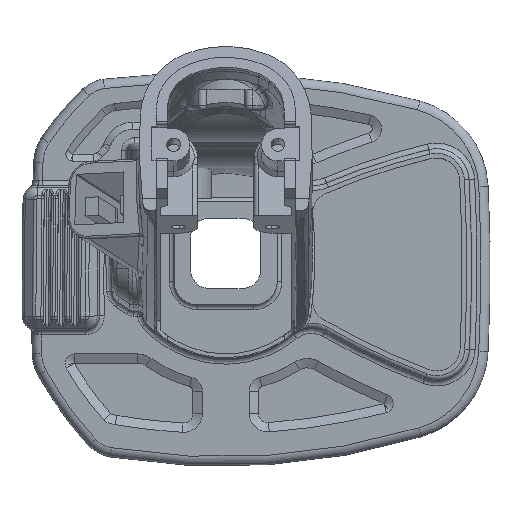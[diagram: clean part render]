
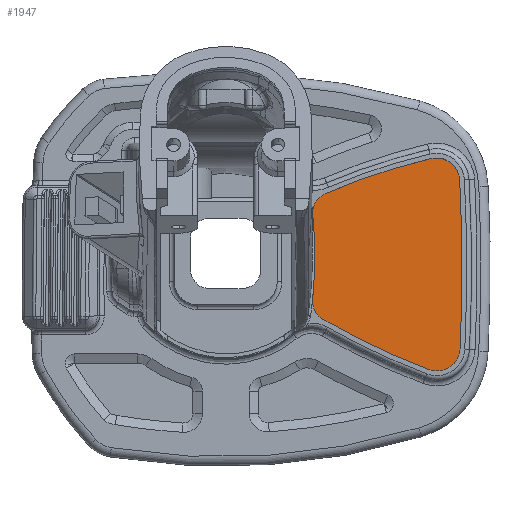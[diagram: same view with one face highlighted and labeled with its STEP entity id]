
A CAD part, top view. The second image highlights one B-rep face of the part: STEP entity #1947.
In plain terms, the highlighted planar face has unit normal (0, 0, 1).
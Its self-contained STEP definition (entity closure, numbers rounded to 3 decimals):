
#1250=FACE_OUTER_BOUND('',#2853,.T.);
#1947=ADVANCED_FACE('',(#1250),#2170,.T.);
#2170=PLANE('',#11968);
#2853=EDGE_LOOP('',(#7524,#7525,#7526,#7527,#7528,#7529,#7530,#7531));
#4536=B_SPLINE_CURVE_WITH_KNOTS('',3,(#27528,#27529,#27530,#27531),.UNSPECIFIED.,
 .F.,.F.,(4,4),(0.,1.),.UNSPECIFIED.);
#7524=ORIENTED_EDGE('',*,*,#10481,.T.);
#7525=ORIENTED_EDGE('',*,*,#10483,.F.);
#7526=ORIENTED_EDGE('',*,*,#10472,.T.);
#7527=ORIENTED_EDGE('',*,*,#10484,.F.);
#7528=ORIENTED_EDGE('',*,*,#10475,.T.);
#7529=ORIENTED_EDGE('',*,*,#10485,.F.);
#7530=ORIENTED_EDGE('',*,*,#10478,.T.);
#7531=ORIENTED_EDGE('',*,*,#10486,.F.);
#8886=VERTEX_POINT('',#27509);
#8887=VERTEX_POINT('',#27511);
#8888=VERTEX_POINT('',#27515);
#8889=VERTEX_POINT('',#27517);
#8890=VERTEX_POINT('',#27521);
#8891=VERTEX_POINT('',#27523);
#8892=VERTEX_POINT('',#27527);
#8893=VERTEX_POINT('',#27532);
#10472=EDGE_CURVE('',#8887,#8886,#11098,.T.);
#10475=EDGE_CURVE('',#8889,#8888,#11099,.T.);
#10478=EDGE_CURVE('',#8891,#8890,#11100,.T.);
#10481=EDGE_CURVE('',#8893,#8892,#4536,.T.);
#10483=EDGE_CURVE('',#8887,#8892,#11101,.T.);
#10484=EDGE_CURVE('',#8889,#8886,#11102,.T.);
#10485=EDGE_CURVE('',#8891,#8888,#11103,.T.);
#10486=EDGE_CURVE('',#8893,#8890,#11104,.T.);
#11098=CIRCLE('',#11958,154.09);
#11099=CIRCLE('',#11960,346.169);
#11100=CIRCLE('',#11962,134.86);
#11101=CIRCLE('',#11964,4.5);
#11102=CIRCLE('',#11965,5.);
#11103=CIRCLE('',#11966,5.);
#11104=CIRCLE('',#11967,4.5);
#11958=AXIS2_PLACEMENT_3D('',#27510,#14108,#14109);
#11960=AXIS2_PLACEMENT_3D('',#27516,#14114,#14115);
#11962=AXIS2_PLACEMENT_3D('',#27522,#14120,#14121);
#11964=AXIS2_PLACEMENT_3D('',#27542,#14127,#14128);
#11965=AXIS2_PLACEMENT_3D('',#27543,#14129,#14130);
#11966=AXIS2_PLACEMENT_3D('',#27544,#14131,#14132);
#11967=AXIS2_PLACEMENT_3D('',#27545,#14133,#14134);
#11968=AXIS2_PLACEMENT_3D('',#27546,#14135,#14136);
#14108=DIRECTION('',(0.,0.,1.));
#14109=DIRECTION('',(1.,0.,0.));
#14114=DIRECTION('',(0.,0.,1.));
#14115=DIRECTION('',(1.,0.,0.));
#14120=DIRECTION('',(0.,0.,1.));
#14121=DIRECTION('',(1.,0.,0.));
#14127=DIRECTION('',(0.,0.,-1.));
#14128=DIRECTION('',(1.,0.,0.));
#14129=DIRECTION('',(0.,0.,-1.));
#14130=DIRECTION('',(1.,0.,0.));
#14131=DIRECTION('',(0.,0.,-1.));
#14132=DIRECTION('',(1.,0.,0.));
#14133=DIRECTION('',(0.,0.,-1.));
#14134=DIRECTION('',(1.,0.,0.));
#14135=DIRECTION('',(0.,0.,1.));
#14136=DIRECTION('',(1.,0.,0.));
#27509=CARTESIAN_POINT('',(133.11,40.214,97.47));
#27510=CARTESIAN_POINT('',(187.776,184.281,97.47));
#27511=CARTESIAN_POINT('',(110.568,50.93,97.47));
#27515=CARTESIAN_POINT('',(139.788,80.671,97.47));
#27516=CARTESIAN_POINT('',(-205.865,61.8,97.47));
#27517=CARTESIAN_POINT('',(139.878,44.641,97.47));
#27521=CARTESIAN_POINT('',(111.07,77.778,97.47));
#27522=CARTESIAN_POINT('',(164.643,-45.985,97.47));
#27523=CARTESIAN_POINT('',(133.647,85.265,97.47));
#27527=CARTESIAN_POINT('',(108.345,55.265,97.47));
#27528=CARTESIAN_POINT('',(108.378,73.224,97.47));
#27529=CARTESIAN_POINT('',(108.944,67.25,97.47));
#27530=CARTESIAN_POINT('',(108.933,61.237,97.47));
#27531=CARTESIAN_POINT('',(108.345,55.265,97.47));
#27532=CARTESIAN_POINT('',(108.378,73.224,97.47));
#27542=CARTESIAN_POINT('',(112.823,54.824,97.47));
#27543=CARTESIAN_POINT('',(134.884,44.889,97.47));
#27544=CARTESIAN_POINT('',(134.796,80.399,97.47));
#27545=CARTESIAN_POINT('',(112.858,73.648,97.47));
#27546=CARTESIAN_POINT('',(187.776,184.281,97.47));
